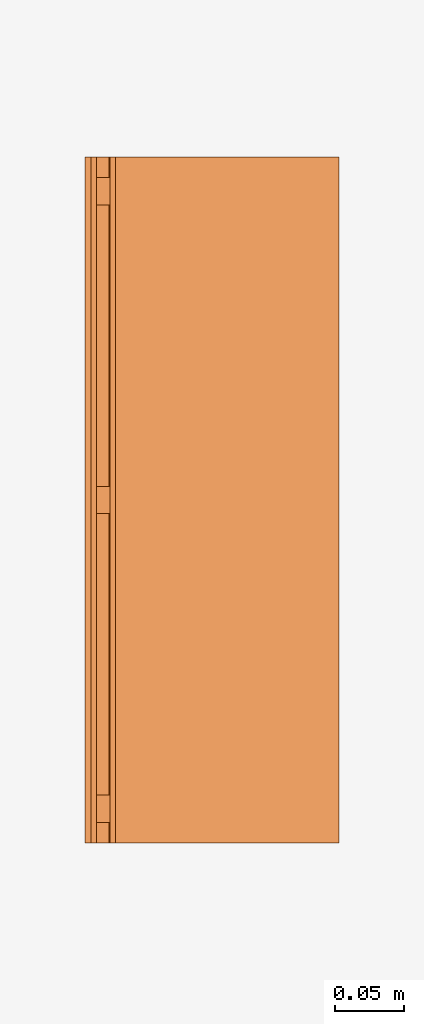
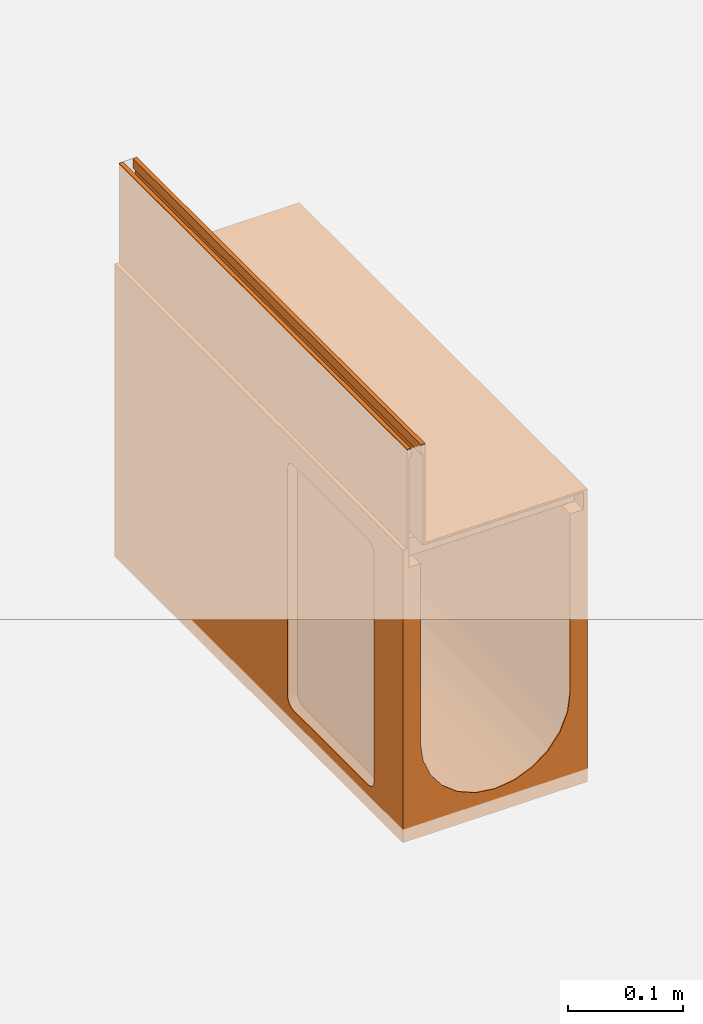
# One storey, part 2 of 2: 1 proxy.
"""IFC2X3 building model written with IfcOpenShell, lengths in millimetres."""

from ifc_helpers import new_model, entity, si_unit, converted_unit, direction, frame, origin, place, context, subcontext, project, spatial, faceted_brep, source, transform, mapped, material, material_list, element, save


model = new_model("IFC2X3")

# Units and contexts
model_context = context("Model", 3, precision=1e-06, world=origin(), true_north=direction((2.0, 6.12303176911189e-17, 1.0)))
context_of_model = context(None, 3, precision=1e-06, world=origin(), true_north=direction((2.0, 6.12303176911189e-17, 1.0)))
body_context = subcontext(model_context, "Body", "Model", "MODEL_VIEW")
ifc_project = project(units=[si_unit("LENGTHUNIT", "METRE", prefix="MILLI"), si_unit("AREAUNIT", "SQUARE_METRE", prefix="MILLI"), si_unit("VOLUMEUNIT", "CUBIC_METRE", prefix="MILLI"), converted_unit("PLANEANGLEUNIT", "DEGREE", entity("IfcRatioMeasure", 0.0174532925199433), si_unit("PLANEANGLEUNIT", "RADIAN"), dimensions=[0, 0, 0, 0, 0, 0, 0]), si_unit("TIMEUNIT", "SECOND")], contexts=[model_context, context_of_model])

# Site, building, storey
site_placement = place(None, origin())
site = spatial("IfcSite", under=ifc_project, at=site_placement, Name="Default", CompositionType="ELEMENT")
building_placement = place(site_placement, origin())
building = spatial("IfcBuilding", under=site, at=building_placement, CompositionType="ELEMENT")
storey_placement = place(building_placement, origin())
storey = spatial("IfcBuildingStorey", under=building, at=storey_placement, Name="Level 1", CompositionType="ELEMENT", Elevation=0.0)

# Proxy
ifc_material_1 = material(Name="Steel, Galvanized")
ifc_material_2 = material(Name="Vienite® Synthetic Resin Concrete")
ifc_material_list = material_list([ifc_material_1, ifc_material_2])
shared_shape = source(origin(), body_context, "Body", "Brep", [
    faceted_brep([(88.2500000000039, 465.0, -107.0), (88.2500000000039, 467.0, -109.0), (88.2500000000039, 483.0, -109.0), (88.2500000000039, 485.0, -107.0), (88.2500000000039, 467.0, -123.49999999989), (88.2500000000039, 465.0, -125.49999999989), (88.2500000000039, 483.0, -123.49999999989), (88.2500000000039, 485.0, -125.49999999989), (-86.2499999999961, 465.0, -125.49999999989), (-86.2499999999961, 467.0, -123.49999999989), (-86.2499999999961, 483.0, -123.49999999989), (-86.2499999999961, 485.0, -125.49999999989), (-86.2499999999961, 467.0, -109.0), (-86.2499999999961, 465.0, -107.0), (-86.2499999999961, 483.0, -109.0), (-86.2499999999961, 485.0, -107.0)], [[[0, 1, 2, 3]], [[4, 1, 0, 5]], [[3, 2, 6, 7]], [[6, 4, 5, 7]], [[8, 9, 10, 11]], [[12, 9, 8, 13]], [[11, 10, 14, 15]], [[14, 12, 13, 15]], [[5, 0, 13, 8]], [[7, 5, 8, 11]], [[3, 7, 11, 15]], [[0, 3, 15, 13]], [[1, 4, 9, 12]], [[14, 2, 1, 12]], [[6, 2, 14, 10]], [[9, 4, 6, 10]]]),
    faceted_brep([(88.2500000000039, 240.0, -107.0), (88.2500000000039, 242.0, -109.0), (88.2500000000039, 258.0, -109.0), (88.2500000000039, 260.0, -107.0), (88.2500000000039, 242.0, -123.49999999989), (88.2500000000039, 240.0, -125.49999999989), (88.2500000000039, 258.0, -123.49999999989), (88.2500000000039, 260.0, -125.49999999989), (-86.2499999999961, 240.0, -125.49999999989), (-86.2499999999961, 242.0, -123.49999999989), (-86.2499999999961, 258.0, -123.49999999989), (-86.2499999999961, 260.0, -125.49999999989), (-86.2499999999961, 242.0, -109.0), (-86.2499999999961, 240.0, -107.0), (-86.2499999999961, 258.0, -109.0), (-86.2499999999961, 260.0, -107.0)], [[[0, 1, 2, 3]], [[4, 1, 0, 5]], [[3, 2, 6, 7]], [[6, 4, 5, 7]], [[8, 9, 10, 11]], [[12, 9, 8, 13]], [[11, 10, 14, 15]], [[14, 12, 13, 15]], [[5, 0, 13, 8]], [[7, 5, 8, 11]], [[15, 3, 7, 11]], [[0, 3, 15, 13]], [[1, 4, 9, 12]], [[14, 2, 1, 12]], [[6, 2, 14, 10]], [[9, 4, 6, 10]]]),
    faceted_brep([(88.2500000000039, 15.0, -107.0), (88.2500000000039, 17.0, -109.0), (88.2500000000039, 33.0, -109.0), (88.2500000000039, 35.0, -107.0), (88.2500000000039, 17.0, -123.49999999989), (88.2500000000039, 15.0, -125.49999999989), (88.2500000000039, 33.0, -123.49999999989), (88.2500000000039, 35.0, -125.49999999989), (-86.2499999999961, 15.0, -125.49999999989), (-86.2499999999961, 17.0, -123.49999999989), (-86.2499999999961, 33.0, -123.49999999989), (-86.2499999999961, 35.0, -125.49999999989), (-86.2499999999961, 17.0, -109.0), (-86.2499999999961, 15.0, -107.0), (-86.2499999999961, 33.0, -109.0), (-86.2499999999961, 35.0, -107.0)], [[[0, 1, 2, 3]], [[4, 1, 0, 5]], [[3, 2, 6, 7]], [[6, 4, 5, 7]], [[8, 9, 10, 11]], [[12, 9, 8, 13]], [[11, 10, 14, 15]], [[14, 12, 13, 15]], [[5, 0, 13, 8]], [[7, 5, 8, 11]], [[3, 7, 11, 15]], [[0, 3, 15, 13]], [[12, 1, 4, 9]], [[14, 2, 1, 12]], [[10, 6, 2, 14]], [[9, 4, 6, 10]]]),
    faceted_brep([(-72.2499999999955, 0.0, -10.0), (-72.2499999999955, 0.0, -107.0), (-70.2499999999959, 0.0, -105.0), (-70.2499999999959, 0.0, 0.0), (-74.2499999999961, 0.0, 0.0), (-74.2499999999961, 0.0, -10.0), (88.2500000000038, 0.0, -107.0), (88.2500000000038, 0.0, -105.0), (-70.2499999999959, 500.0, -105.0), (88.2500000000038, 500.0, -105.0), (88.2500000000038, 500.0, -107.0), (-72.2499999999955, 500.0, -107.0), (-72.2499999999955, 500.0, -10.0), (-70.2499999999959, 500.0, 0.0), (-74.2499999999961, 500.0, -10.0), (-74.2499999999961, 500.0, 0.0)], [[[0, 1, 2, 3]], [[4, 5, 0, 3]], [[6, 7, 2, 1]], [[8, 9, 10, 11]], [[12, 13, 8, 11]], [[12, 14, 15, 13]], [[0, 5, 14, 12]], [[1, 0, 12, 11]], [[10, 6, 1, 11]], [[9, 7, 6, 10]], [[8, 2, 7, 9]], [[3, 2, 8, 13]], [[4, 3, 13, 15]], [[5, 4, 15, 14]]]),
    faceted_brep([(-84.249999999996, 500.0, 0.0), (-84.249999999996, 500.0, -10.0), (-86.2499999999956, 500.0, -10.0), (-88.2499999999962, 500.0, 0.0), (-88.2499999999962, 500.0, -125.499999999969), (-86.2499999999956, 500.0, -125.499999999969), (-86.2499999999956, 0.0, -10.0), (-88.2499999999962, 0.0, 0.0), (-88.2499999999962, 0.0, -125.499999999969), (-86.2499999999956, 0.0, -125.499999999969), (-84.249999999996, 0.0, 0.0), (-84.249999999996, 0.0, -10.0)], [[[0, 1, 2, 3]], [[4, 3, 2, 5]], [[6, 7, 8, 9]], [[10, 7, 6, 11]], [[9, 8, 4, 5]], [[6, 9, 5, 2]], [[1, 11, 6, 2]], [[10, 11, 1, 0]], [[7, 10, 0, 3]], [[4, 8, 7, 3]]]),
    faceted_brep([(82.5000000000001, 57.411809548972, -389.659258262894), (82.5000000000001, 60.0, -390.0), (82.5000000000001, 50.0, -380.0), (82.5000000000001, 50.3407417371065, -382.588190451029), (82.5000000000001, 55.0, -388.660254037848), (82.5000000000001, 52.9289321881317, -387.071067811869), (82.5000000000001, 51.3397459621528, -385.0), (82.5000000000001, 200.0, -380.0), (82.5000000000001, 190.0, -390.0), (82.5000000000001, 192.588190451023, -389.659258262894), (82.5000000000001, 195.0, -388.660254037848), (82.5000000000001, 197.071067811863, -387.071067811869), (82.5000000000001, 198.660254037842, -385.0), (82.5000000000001, 199.659258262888, -382.588190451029), (82.5000000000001, 200.0, -140.0), (82.5000000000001, 50.0, -140.0), (82.5000000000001, 50.3407417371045, -137.411809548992), (82.5000000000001, 60.0, -130.0), (82.5000000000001, 52.9289321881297, -132.928932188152), (82.5000000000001, 51.3397459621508, -135.0), (82.5000000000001, 55.0, -131.339745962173), (82.5000000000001, 57.4118095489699, -130.340741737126), (82.5000000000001, 190.0, -130.0), (82.5000000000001, 199.65925826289, -137.411809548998), (82.5000000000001, 198.660254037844, -135.0), (82.5000000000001, 197.071067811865, -132.928932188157), (82.5000000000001, 195.0, -131.339745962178), (82.5000000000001, 192.588190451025, -130.340741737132), (92.5000000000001, 50.0, -380.0), (92.5, 50.0, -140.0), (92.5000000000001, 60.0, -130.0), (92.5, 190.0, -130.0), (92.4999999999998, 200.0, -380.0), (92.5000000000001, 200.0, -140.0), (92.5000000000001, 190.0, -390.0), (92.4999999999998, 60.0, -390.0), (88.25, 500.0, -125.500000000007), (88.2500000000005, 500.0, -105.0), (92.5, 500.0, -105.0), (92.4999999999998, 500.0, -415.0), (75.0, 500.0, -315.0), (75.0, 500.0, -125.499999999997), (-92.4999999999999, 500.0, -105.0), (-88.25, 500.0, -105.0), (-88.25, 500.0, -125.500000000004), (-92.4999999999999, 500.0, -415.0), (-75.0, 500.0, -125.500000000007), (-75.0, 500.0, -315.0), (72.4444369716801, 500.0, -334.411428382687), (53.0330085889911, 500.0, -368.033008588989), (64.9519052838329, 500.0, -352.499999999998), (37.5000000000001, 500.0, -379.951905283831), (0.0, 500.0, -390.0), (19.4114283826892, 500.0, -387.444436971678), (-64.9519052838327, 500.0, -352.499999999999), (-53.0330085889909, 500.0, -368.03300858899), (-72.4444369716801, 500.0, -334.411428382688), (-37.4999999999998, 500.0, -379.951905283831), (-19.4114283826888, 500.0, -387.444436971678), (92.4999999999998, 0.0, -415.0), (19.4114283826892, 0.0, -387.444436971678), (0.0, 0.0, -390.0), (37.5000000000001, 0.0, -379.951905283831), (53.0330085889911, 0.0, -368.033008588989), (64.9519052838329, 0.0, -352.499999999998), (72.4444369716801, 0.0, -334.411428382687), (-19.4114283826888, 0.0, -387.444436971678), (-92.4999999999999, 0.0, -415.0), (-37.4999999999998, 0.0, -379.951905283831), (-53.0330085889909, 0.0, -368.03300858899), (-64.9519052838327, 0.0, -352.499999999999), (-72.4444369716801, 0.0, -334.411428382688), (75.0, 0.0, -315.0), (88.25, 0.0, -125.500000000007), (75.0, 0.0, -125.499999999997), (92.5, 0.0, -105.0), (88.2500000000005, 0.0, -105.0), (-75.0, 0.0, -315.0), (-75.0, 0.0, -125.500000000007), (-88.25, 0.0, -125.500000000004), (-88.25, 0.0, -105.0), (-92.4999999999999, 0.0, -105.0), (-92.4999999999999, 51.339745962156, -135.0), (-92.4999999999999, 50.3407417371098, -137.411809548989), (-92.4999999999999, 52.928932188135, -132.928932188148), (-92.4999999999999, 50.0, -140.0), (-92.4999999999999, 50.0, -380.0), (-92.4999999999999, 60.0, -130.0), (-92.4999999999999, 57.4118095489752, -130.340741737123), (-92.4999999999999, 55.0, -131.339745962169), (-92.4999999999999, 190.0, -130.0), (-92.4999999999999, 50.3407417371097, -382.588190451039), (-92.4999999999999, 51.339745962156, -385.0), (-92.4999999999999, 52.9289321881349, -387.071067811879), (-92.4999999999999, 55.0, -388.660254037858), (-92.4999999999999, 57.4118095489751, -389.659258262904), (-92.4999999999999, 60.0, -390.0), (-92.4999999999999, 190.0, -390.0), (-92.4999999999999, 192.588190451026, -130.340741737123), (-92.4999999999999, 197.071067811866, -132.928932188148), (-92.4999999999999, 195.0, -131.339745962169), (-92.4999999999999, 198.660254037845, -135.0), (-92.4999999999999, 199.659258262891, -137.411809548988), (-92.4999999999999, 200.0, -140.0), (-92.4999999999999, 195.0, -388.660254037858), (-92.4999999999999, 197.071067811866, -387.071067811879), (-92.4999999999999, 192.588190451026, -389.659258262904), (-92.4999999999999, 199.659258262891, -382.588190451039), (-92.4999999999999, 200.0, -380.0), (-92.4999999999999, 198.660254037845, -385.0), (-20.7055236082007, 47.7259338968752, -415.0), (0.0, 45.0, -415.0), (-40.0, 55.7179676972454, -415.0), (-77.2740661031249, 104.294476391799, -415.0), (-69.2820323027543, 85.0, -415.0), (-56.568542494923, 68.4314575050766, -415.0), (-80.0, 125.0, -415.0), (20.7055236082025, 47.7259338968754, -415.0), (40.0, 55.7179676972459, -415.0), (56.5685424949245, 68.4314575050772, -415.0), (69.2820323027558, 85.0, -415.0), (77.274066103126, 104.294476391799, -415.0), (80.0, 125.0, -415.0), (-77.2740661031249, 145.705523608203, -415.0), (-69.2820323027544, 165.0, -415.0), (-56.568542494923, 181.568542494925, -415.0), (-40.0, 194.282032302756, -415.0), (-20.7055236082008, 202.274066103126, -415.0), (0.0, 205.0, -415.0), (69.2820323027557, 165.0, -415.0), (56.5685424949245, 181.568542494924, -415.0), (77.274066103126, 145.705523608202, -415.0), (20.7055236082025, 202.274066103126, -415.0), (40.0, 194.282032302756, -415.0), (92.4999999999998, 51.3397459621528, -385.0), (92.4999999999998, 50.3407417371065, -382.588190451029), (92.4999999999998, 52.9289321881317, -387.071067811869), (92.4999999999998, 57.411809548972, -389.659258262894), (92.4999999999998, 55.0, -388.660254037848), (92.5, 50.3407417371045, -137.411809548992), (92.5, 51.3397459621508, -135.0), (92.5, 52.9289321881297, -132.928932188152), (92.5, 55.0, -131.339745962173), (92.5, 57.4118095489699, -130.340741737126), (92.4999999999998, 192.588190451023, -389.659258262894), (92.4999999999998, 197.071067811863, -387.071067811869), (92.4999999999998, 195.0, -388.660254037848), (92.4999999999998, 198.660254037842, -385.0), (92.4999999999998, 199.659258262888, -382.588190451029), (92.5, 195.0, -131.339745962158), (92.5, 197.071067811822, -132.928932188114), (92.5, 192.588190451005, -130.340741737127), (92.5, 199.659258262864, -137.4118095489), (92.5, 198.660254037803, -135.0), (-82.4999999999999, 199.659258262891, -137.411809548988), (-82.4999999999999, 200.0, -140.0), (-82.4999999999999, 190.0, -130.0), (-82.4999999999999, 198.660254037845, -135.0), (-82.4999999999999, 192.588190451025, -130.340741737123), (-82.4999999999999, 195.0, -131.339745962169), (-82.4999999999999, 197.071067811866, -132.928932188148), (-82.4999999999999, 50.0, -380.0), (-82.4999999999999, 200.0, -380.0), (-82.4999999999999, 190.0, -390.0), (-82.4999999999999, 199.659258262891, -382.588190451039), (-82.4999999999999, 198.660254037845, -385.0), (-82.4999999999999, 195.0, -388.660254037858), (-82.4999999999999, 197.071067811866, -387.071067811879), (-82.4999999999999, 192.588190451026, -389.659258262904), (-82.4999999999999, 60.0, -130.0), (-82.4999999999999, 50.0, -140.0), (-82.4999999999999, 57.4118095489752, -130.340741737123), (-82.4999999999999, 55.0, -131.339745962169), (-82.4999999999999, 50.3407417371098, -137.411809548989), (-82.4999999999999, 51.339745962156, -135.0), (-82.4999999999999, 52.928932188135, -132.928932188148), (-82.4999999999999, 60.0, -390.0), (-82.4999999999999, 57.4118095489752, -389.659258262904), (-82.4999999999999, 55.0, -388.660254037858), (-82.4999999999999, 50.3407417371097, -382.588190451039), (-82.4999999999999, 52.9289321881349, -387.071067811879), (-82.4999999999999, 51.339745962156, -385.0), (-56.568542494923, 181.568542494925, -405.0), (-40.0, 194.282032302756, -405.0), (-20.7055236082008, 202.274066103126, -405.0), (40.0, 194.282032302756, -405.0), (-80.0, 125.0, -405.0), (-77.2740661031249, 145.705523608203, -405.0), (-69.2820323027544, 165.0, -405.0), (77.274066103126, 145.705523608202, -405.0), (0.0, 205.0, -405.0), (20.7055236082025, 202.274066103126, -405.0), (56.5685424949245, 181.568542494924, -405.0), (69.2820323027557, 165.0, -405.0), (-77.274066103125, 104.294476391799, -405.0), (80.0, 125.0, -405.0), (-56.5685424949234, 68.431457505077, -405.0), (-69.2820323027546, 85.0, -405.0), (-40.0, 55.7179676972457, -405.0), (0.0, 45.0, -405.0), (-20.7055236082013, 47.7259338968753, -405.0), (40.0, 55.7179676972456, -405.0), (77.2740661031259, 104.294476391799, -405.0), (69.2820323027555, 85.0, -405.0), (56.5685424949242, 68.4314575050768, -405.0), (20.705523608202, 47.7259338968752, -405.0)], [[[0, 1, 2, 3]], [[4, 0, 5]], [[0, 3, 6, 5]], [[7, 2, 1, 8]], [[9, 10, 11, 8]], [[7, 11, 12, 13]], [[7, 8, 11]], [[2, 7, 14, 15]], [[16, 15, 17, 18]], [[19, 16, 18]], [[20, 18, 17, 21]], [[22, 17, 15, 14]], [[23, 24, 25, 22]], [[14, 23, 22]], [[26, 27, 22, 25]], [[28, 2, 15, 29]], [[30, 17, 22, 31]], [[14, 7, 32, 33]], [[34, 8, 1, 35]], [[36, 37, 38, 39]], [[40, 41, 36, 39]], [[42, 43, 44, 45]], [[44, 46, 47, 45]], [[40, 39, 48]], [[49, 50, 39]], [[51, 49, 39]], [[52, 53, 39, 45]], [[39, 53, 51]], [[50, 48, 39]], [[54, 55, 45]], [[56, 54, 45]], [[57, 58, 45]], [[45, 58, 52]], [[57, 45, 55]], [[56, 45, 47]], [[59, 60, 61]], [[60, 59, 62]], [[63, 62, 59]], [[64, 63, 59]], [[59, 65, 64]], [[61, 66, 67, 59]], [[67, 66, 68]], [[69, 70, 67]], [[68, 69, 67]], [[67, 70, 71]], [[72, 65, 59]], [[73, 74, 72, 59]], [[75, 76, 73, 59]], [[77, 78, 79, 67]], [[71, 77, 67]], [[79, 80, 81, 67]], [[43, 80, 79, 44]], [[81, 80, 43, 42]], [[81, 82, 83]], [[82, 81, 84]], [[81, 83, 85, 86]], [[87, 88, 81]], [[89, 84, 81]], [[88, 89, 81]], [[90, 87, 81, 42]], [[86, 91, 67, 81]], [[67, 92, 93]], [[92, 67, 91]], [[93, 94, 67]], [[95, 96, 67]], [[94, 95, 67]], [[67, 96, 97]], [[98, 90, 42]], [[99, 100, 42]], [[98, 42, 100]], [[101, 42, 102]], [[42, 101, 99]], [[103, 102, 42, 45]], [[104, 105, 45]], [[97, 106, 45, 67]], [[104, 45, 106]], [[45, 107, 108, 103]], [[109, 45, 105]], [[45, 109, 107]], [[67, 110, 111, 59]], [[110, 67, 112]], [[113, 114, 67]], [[115, 112, 67]], [[114, 115, 67]], [[67, 116, 113]], [[59, 117, 118]], [[117, 59, 111]], [[59, 118, 119]], [[119, 120, 59]], [[121, 122, 59]], [[120, 121, 59]], [[59, 122, 39]], [[123, 116, 45]], [[124, 123, 45]], [[125, 45, 126]], [[45, 125, 124]], [[127, 126, 45]], [[128, 127, 45, 39]], [[116, 67, 45]], [[129, 130, 39]], [[131, 129, 39]], [[132, 128, 39]], [[133, 39, 130]], [[39, 133, 132]], [[131, 39, 122]], [[59, 134, 135]], [[134, 59, 136]], [[59, 135, 28, 29]], [[35, 137, 59]], [[138, 136, 59]], [[137, 138, 59]], [[34, 35, 59, 39]], [[29, 139, 75, 59]], [[75, 140, 141]], [[140, 75, 139]], [[141, 142, 75]], [[143, 30, 75]], [[142, 143, 75]], [[75, 30, 31]], [[144, 34, 39]], [[145, 146, 39]], [[144, 39, 146]], [[147, 39, 148]], [[39, 147, 145]], [[32, 148, 39, 38]], [[149, 150, 38]], [[31, 151, 38, 75]], [[149, 38, 151]], [[38, 152, 33, 32]], [[153, 38, 150]], [[38, 153, 152]], [[76, 75, 38, 37]], [[73, 76, 37, 36]], [[74, 73, 36, 41]], [[40, 72, 74, 41]], [[46, 78, 77, 47]], [[44, 79, 78, 46]], [[50, 64, 65, 48]], [[48, 65, 72, 40]], [[51, 62, 63, 49]], [[49, 63, 64, 50]], [[53, 60, 62, 51]], [[60, 53, 52, 61]], [[57, 68, 66, 58]], [[55, 69, 68, 57]], [[56, 71, 70, 54]], [[54, 70, 69, 55]], [[47, 77, 71, 56]], [[58, 66, 61, 52]], [[154, 155, 156, 157]], [[156, 158, 159, 160]], [[160, 157, 156]], [[161, 155, 162, 163]], [[162, 164, 165, 163]], [[166, 165, 167]], [[166, 168, 163, 165]], [[169, 156, 155, 170]], [[171, 169, 170, 172]], [[173, 174, 175, 170]], [[172, 170, 175]], [[170, 155, 161]], [[176, 177, 178, 161]], [[179, 161, 180, 181]], [[178, 180, 161]], [[176, 161, 163]], [[85, 170, 161, 86]], [[90, 156, 169, 87]], [[108, 162, 155, 103]], [[96, 176, 163, 97]], [[179, 91, 86, 161]], [[181, 92, 91, 179]], [[92, 181, 180, 93]], [[178, 94, 93, 180]], [[177, 95, 94, 178]], [[95, 177, 176, 96]], [[168, 106, 97, 163]], [[166, 104, 106, 168]], [[104, 166, 167, 105]], [[165, 109, 105, 167]], [[164, 107, 109, 165]], [[107, 164, 162, 108]], [[154, 102, 103, 155]], [[157, 101, 102, 154]], [[101, 157, 160, 99]], [[159, 100, 99, 160]], [[158, 98, 100, 159]], [[98, 158, 156, 90]], [[171, 88, 87, 169]], [[172, 89, 88, 171]], [[89, 172, 175, 84]], [[174, 82, 84, 175]], [[173, 83, 82, 174]], [[83, 173, 170, 85]], [[16, 139, 29, 15]], [[19, 140, 139, 16]], [[140, 19, 18, 141]], [[20, 142, 141, 18]], [[21, 143, 142, 20]], [[143, 21, 17, 30]], [[27, 151, 31, 22]], [[26, 149, 151, 27]], [[149, 26, 25, 150]], [[24, 153, 150, 25]], [[23, 152, 153, 24]], [[152, 23, 14, 33]], [[13, 148, 32, 7]], [[12, 147, 148, 13]], [[147, 12, 11, 145]], [[10, 146, 145, 11]], [[9, 144, 146, 10]], [[144, 9, 8, 34]], [[0, 137, 35, 1]], [[4, 138, 137, 0]], [[138, 4, 5, 136]], [[6, 134, 136, 5]], [[3, 135, 134, 6]], [[135, 3, 2, 28]], [[182, 183, 184, 185]], [[182, 186, 187, 188]], [[186, 182, 185, 189]], [[184, 190, 191, 185]], [[185, 192, 193, 189]], [[194, 186, 189, 195]], [[196, 197, 194, 198]], [[199, 200, 198, 201]], [[195, 198, 194]], [[202, 203, 204, 201]], [[195, 202, 201, 198]], [[201, 205, 199]], [[189, 131, 122, 195]], [[193, 129, 131, 189]], [[185, 133, 130, 192]], [[192, 130, 129, 193]], [[191, 132, 133, 185]], [[132, 191, 190, 128]], [[184, 127, 128, 190]], [[183, 126, 127, 184]], [[188, 124, 125, 182]], [[182, 125, 126, 183]], [[187, 123, 124, 188]], [[123, 187, 186, 116]], [[194, 113, 116, 186]], [[197, 114, 113, 194]], [[198, 112, 115, 196]], [[196, 115, 114, 197]], [[200, 110, 112, 198]], [[110, 200, 199, 111]], [[205, 117, 111, 199]], [[201, 118, 117, 205]], [[203, 120, 119, 204]], [[204, 119, 118, 201]], [[202, 121, 120, 203]], [[202, 195, 122, 121]]]),
])
proxy_placement = place(storey_placement, frame((0.0, -230.0, 0.0)))
element("IfcBuildingElementProxy", 1, at=proxy_placement, inside=storey, material=ifc_material_list, Name="Civil-Drainage-Channel-ACO-MultiDrain-M150D-Brickslot-Channel-System:23155 - No 20.1 Constant Depth Channel - 500mm LG - Invert Depth 285mm:23155 - No 20.1 Constant Depth Channel - 500mm LG - Invert Depth 285mm", ObjectType="23155 - No 20.1 Constant Depth Channel - 500mm LG - Invert Depth 285mm", CompositionType="ELEMENT", context=body_context, shape_type="MappedRepresentation", body=[
    mapped(shared_shape, transform((0.0, 0.0, 0.0), scale=1.0)),
])

save(model, "model.ifc")
